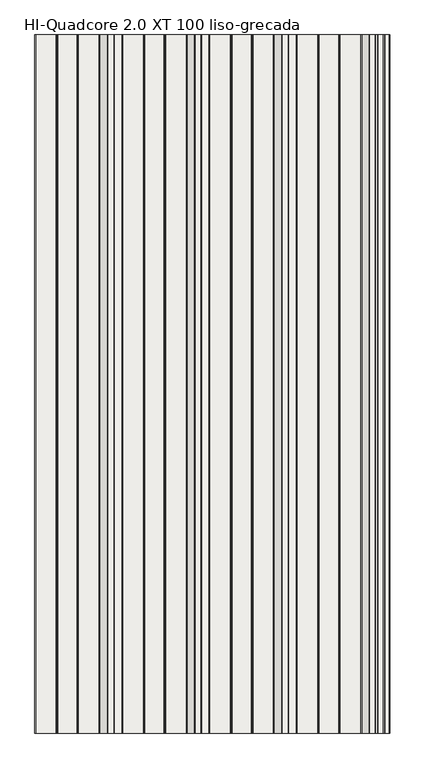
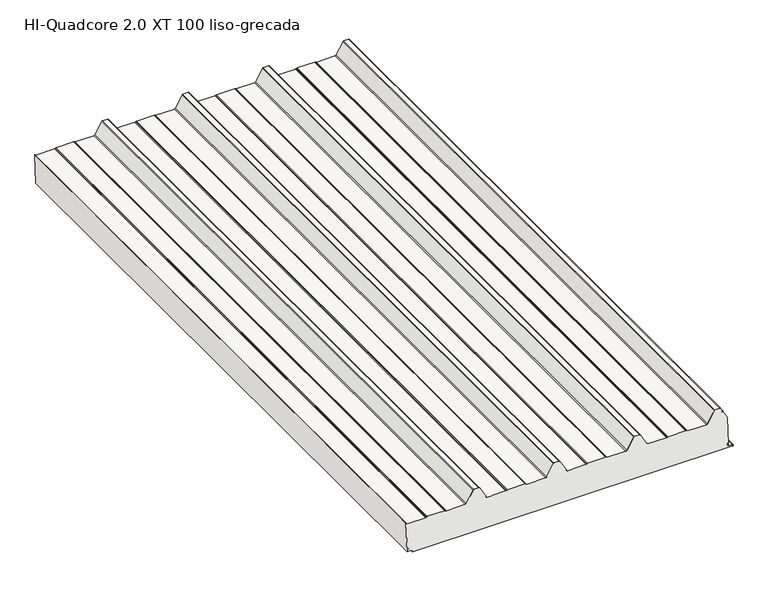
"""IFC4 building model written with IfcOpenShell, lengths in millimetres: slab geometry, HI_QuadCore2.0XT-XT DUAL : HI-Quadcore 2.0 XT 100 liso-grecada."""

from ifc_helpers import new_model, si_unit, point, frame, frame_2d, origin, place, context, project, spatial, polyline, circle_curve, trimmed, segment, composite_curve, outline, extrude, source, transform, mapped, element, save


def hi_quadcore_2_0_xt_100_liso_grecada_5e3a8000(model_context):
    return source(origin(), model_context, "Body", "SweptSolid", [
        extrude(outline(composite_curve([segment(polyline([(101.2667387, 1181.036551), (127.9197266, 1166.0442453)]), True, "CONTINUOUS"), segment(trimmed(circle_curve(frame_2d((126.9392041, 1164.3010942)), 2.0), [point((127.9197266, 1166.0442453))], [point((125.939301, 1166.033201))], True, "CARTESIAN"), True, "CONTINUOUS"), segment(polyline([(125.939301, 1166.033201), (124.3282068, 1165.1031555), (124.7281681, 1164.4103128), (126.3392623, 1165.3403583)]), True, "CONTINUOUS"), segment(trimmed(circle_curve(frame_2d((126.9392041, 1164.3010942)), 1.2), [point((126.3392623, 1165.3403583))], [point((127.5275176, 1165.3469849))], False, "CARTESIAN"), True, "CONTINUOUS"), segment(polyline([(127.5275176, 1165.3469849), (138.0785747, 1159.4120152)]), True, "CONTINUOUS"), segment(trimmed(circle_curve(frame_2d((137.0, 1157.4945491)), 2.2), [point((138.0785747, 1159.4120152))], [point((139.2, 1157.4945491))], False, "CARTESIAN"), True, "CONTINUOUS"), segment(polyline([(139.2, 1157.4945491), (139.2, 1142.1184247)]), True, "CONTINUOUS"), segment(trimmed(circle_curve(frame_2d((137.0, 1142.1184247)), 2.2), [point((139.2, 1142.1184247))], [point((138.0662182, 1140.1940602))], False, "CARTESIAN"), True, "CONTINUOUS"), segment(polyline([(138.0662182, 1140.1940602), (101.1583504, 1119.7447946)]), True, "CONTINUOUS"), segment(trimmed(circle_curve(frame_2d((103.0, 1116.4208923)), 3.8), [point((101.1583504, 1119.7447946))], [point((99.2, 1116.4208923))], True, "CARTESIAN"), True, "CONTINUOUS"), segment(polyline([(99.2, 1116.4208923), (99.2, 1057.5510443)]), True, "CONTINUOUS"), segment(trimmed(circle_curve(frame_2d((103.0, 1057.5510443)), 3.8), [point((99.2, 1057.5510443))], [point((99.6973596, 1055.671532))], True, "CARTESIAN"), True, "CONTINUOUS"), segment(polyline([(99.6973596, 1055.671532), (100.912055, 1053.5370944)]), True, "CONTINUOUS"), segment(trimmed(circle_curve(frame_2d((99.0, 1052.4489557)), 2.2), [point((100.912055, 1053.5370944))], [point((101.2, 1052.4489557))], False, "CARTESIAN"), True, "CONTINUOUS"), segment(polyline([(101.2, 1052.4489557), (101.2, 997.5510443)]), True, "CONTINUOUS"), segment(trimmed(circle_curve(frame_2d((99.0, 997.5510443)), 2.2), [point((101.2, 997.5510443))], [point((100.912055, 996.4629056))], False, "CARTESIAN"), True, "CONTINUOUS"), segment(polyline([(100.912055, 996.4629056), (99.6973596, 994.328468)]), True, "CONTINUOUS"), segment(trimmed(circle_curve(frame_2d((103.0, 992.4489557)), 3.8), [point((99.6973596, 994.328468))], [point((99.2, 992.4489557))], True, "CARTESIAN"), True, "CONTINUOUS"), segment(polyline([(99.2, 992.4489557), (99.2, 934.2545425)]), True, "CONTINUOUS"), segment(trimmed(circle_curve(frame_2d((103.0, 934.2545425)), 3.8), [point((99.2, 934.2545425))], [point((101.1370073, 930.9425554))], True, "CARTESIAN"), True, "CONTINUOUS"), segment(polyline([(101.1370073, 930.9425554), (138.0785747, 910.1629237)]), True, "CONTINUOUS"), segment(trimmed(circle_curve(frame_2d((137.0, 908.2454575)), 2.2), [point((138.0785747, 910.1629237))], [point((139.2, 908.2454575))], False, "CARTESIAN"), True, "CONTINUOUS"), segment(polyline([(139.2, 908.2454575), (139.2, 891.7545425)]), True, "CONTINUOUS"), segment(trimmed(circle_curve(frame_2d((137.0, 891.7545425)), 2.2), [point((139.2, 891.7545425))], [point((138.0785747, 889.8370763))], False, "CARTESIAN"), True, "CONTINUOUS"), segment(polyline([(138.0785747, 889.8370763), (101.1370073, 869.0574446)]), True, "CONTINUOUS"), segment(trimmed(circle_curve(frame_2d((103.0, 865.7454575)), 3.8), [point((101.1370073, 869.0574446))], [point((99.2, 865.7454575))], True, "CARTESIAN"), True, "CONTINUOUS"), segment(polyline([(99.2, 865.7454575), (99.2, 807.5510443)]), True, "CONTINUOUS"), segment(trimmed(circle_curve(frame_2d((103.0, 807.5510443)), 3.8), [point((99.2, 807.5510443))], [point((99.6973596, 805.671532))], True, "CARTESIAN"), True, "CONTINUOUS"), segment(polyline([(99.6973596, 805.671532), (100.912055, 803.5370944)]), True, "CONTINUOUS"), segment(trimmed(circle_curve(frame_2d((99.0, 802.4489557)), 2.2), [point((100.912055, 803.5370944))], [point((101.2, 802.4489557))], False, "CARTESIAN"), True, "CONTINUOUS"), segment(polyline([(101.2, 802.4489557), (101.2, 747.5510443)]), True, "CONTINUOUS"), segment(trimmed(circle_curve(frame_2d((99.0, 747.5510443)), 2.2), [point((101.2, 747.5510443))], [point((100.912055, 746.4629056))], False, "CARTESIAN"), True, "CONTINUOUS"), segment(polyline([(100.912055, 746.4629056), (99.6973596, 744.328468)]), True, "CONTINUOUS"), segment(trimmed(circle_curve(frame_2d((103.0, 742.4489557)), 3.8), [point((99.6973596, 744.328468))], [point((99.2, 742.4489557))], True, "CARTESIAN"), True, "CONTINUOUS"), segment(polyline([(99.2, 742.4489557), (99.2, 684.2545425)]), True, "CONTINUOUS"), segment(trimmed(circle_curve(frame_2d((103.0, 684.2545425)), 3.8), [point((99.2, 684.2545425))], [point((101.1370073, 680.9425554))], True, "CARTESIAN"), True, "CONTINUOUS"), segment(polyline([(101.1370073, 680.9425554), (138.0785747, 660.1629237)]), True, "CONTINUOUS"), segment(trimmed(circle_curve(frame_2d((137.0, 658.2454575)), 2.2), [point((138.0785747, 660.1629237))], [point((139.2, 658.2454575))], False, "CARTESIAN"), True, "CONTINUOUS"), segment(polyline([(139.2, 658.2454575), (139.2, 641.7545425)]), True, "CONTINUOUS"), segment(trimmed(circle_curve(frame_2d((137.0, 641.7545425)), 2.2), [point((139.2, 641.7545425))], [point((138.0785747, 639.8370763))], False, "CARTESIAN"), True, "CONTINUOUS"), segment(polyline([(138.0785747, 639.8370763), (101.1370073, 619.0574446)]), True, "CONTINUOUS"), segment(trimmed(circle_curve(frame_2d((103.0, 615.7454575)), 3.8), [point((101.1370073, 619.0574446))], [point((99.2, 615.7454575))], True, "CARTESIAN"), True, "CONTINUOUS"), segment(polyline([(99.2, 615.7454575), (99.2, 557.5510443)]), True, "CONTINUOUS"), segment(trimmed(circle_curve(frame_2d((103.0, 557.5510443)), 3.8), [point((99.2, 557.5510443))], [point((99.6973596, 555.671532))], True, "CARTESIAN"), True, "CONTINUOUS"), segment(polyline([(99.6973596, 555.671532), (100.912055, 553.5370944)]), True, "CONTINUOUS"), segment(trimmed(circle_curve(frame_2d((99.0, 552.4489557)), 2.2), [point((100.912055, 553.5370944))], [point((101.2, 552.4489557))], False, "CARTESIAN"), True, "CONTINUOUS"), segment(polyline([(101.2, 552.4489557), (101.2, 497.5510443)]), True, "CONTINUOUS"), segment(trimmed(circle_curve(frame_2d((99.0, 497.5510443)), 2.2), [point((101.2, 497.5510443))], [point((100.912055, 496.4629056))], False, "CARTESIAN"), True, "CONTINUOUS"), segment(polyline([(100.912055, 496.4629056), (99.6973596, 494.328468)]), True, "CONTINUOUS"), segment(trimmed(circle_curve(frame_2d((103.0, 492.4489557)), 3.8), [point((99.6973596, 494.328468))], [point((99.2, 492.4489557))], True, "CARTESIAN"), True, "CONTINUOUS"), segment(polyline([(99.2, 492.4489557), (99.2, 434.2545425)]), True, "CONTINUOUS"), segment(trimmed(circle_curve(frame_2d((103.0, 434.2545425)), 3.8), [point((99.2, 434.2545425))], [point((101.1370073, 430.9425554))], True, "CARTESIAN"), True, "CONTINUOUS"), segment(polyline([(101.1370073, 430.9425554), (138.0785747, 410.1629237)]), True, "CONTINUOUS"), segment(trimmed(circle_curve(frame_2d((137.0, 408.2454575)), 2.2), [point((138.0785747, 410.1629237))], [point((139.2, 408.2454575))], False, "CARTESIAN"), True, "CONTINUOUS"), segment(polyline([(139.2, 408.2454575), (139.2, 391.7545425)]), True, "CONTINUOUS"), segment(trimmed(circle_curve(frame_2d((137.0, 391.7545425)), 2.2), [point((139.2, 391.7545425))], [point((138.0785747, 389.8370763))], False, "CARTESIAN"), True, "CONTINUOUS"), segment(polyline([(138.0785747, 389.8370763), (101.1370073, 369.0574446)]), True, "CONTINUOUS"), segment(trimmed(circle_curve(frame_2d((103.0, 365.7454575)), 3.8), [point((101.1370073, 369.0574446))], [point((99.2, 365.7454575))], True, "CARTESIAN"), True, "CONTINUOUS"), segment(polyline([(99.2, 365.7454575), (99.2, 307.5510443)]), True, "CONTINUOUS"), segment(trimmed(circle_curve(frame_2d((103.0, 307.5510443)), 3.8), [point((99.2, 307.5510443))], [point((99.6973596, 305.671532))], True, "CARTESIAN"), True, "CONTINUOUS"), segment(polyline([(99.6973596, 305.671532), (100.912055, 303.5370944)]), True, "CONTINUOUS"), segment(trimmed(circle_curve(frame_2d((99.0, 302.4489557)), 2.2), [point((100.912055, 303.5370944))], [point((101.2, 302.4489557))], False, "CARTESIAN"), True, "CONTINUOUS"), segment(polyline([(101.2, 302.4489557), (101.2, 247.5510443)]), True, "CONTINUOUS"), segment(trimmed(circle_curve(frame_2d((99.0, 247.5510443)), 2.2), [point((101.2, 247.5510443))], [point((100.912055, 246.4629056))], False, "CARTESIAN"), True, "CONTINUOUS"), segment(polyline([(100.912055, 246.4629056), (99.6973596, 244.328468)]), True, "CONTINUOUS"), segment(trimmed(circle_curve(frame_2d((103.0, 242.4489557)), 3.8), [point((99.6973596, 244.328468))], [point((99.2, 242.4489557))], True, "CARTESIAN"), True, "CONTINUOUS"), segment(polyline([(99.2, 242.4489557), (99.2, 184.6545425)]), True, "CONTINUOUS"), segment(trimmed(circle_curve(frame_2d((103.0, 184.6545425)), 3.8), [point((99.2, 184.6545425))], [point((101.2048889, 181.3052775))], True, "CARTESIAN"), True, "CONTINUOUS"), segment(polyline([(101.2048889, 181.3052775), (7.0308356, 184.4622222), (7.2414508, 185.8457731), (11.9758655, 185.8456417)]), True, "CONTINUOUS"), segment(trimmed(circle_curve(frame_2d((11.9759203, 187.8456416)), 1.9999999), [point((11.9758655, 185.8456417))], [point((13.3900948, 186.4313891))], True, "CARTESIAN"), True, "CONTINUOUS"), segment(polyline([(13.3900948, 186.4313891), (15.4963556, 188.5375329), (14.9306702, 189.1032183), (12.8244256, 186.9970899)]), True, "CONTINUOUS"), segment(trimmed(circle_curve(frame_2d((11.9759203, 187.8456416)), 1.2000005), [point((12.8244256, 186.9970899))], [point((11.9773876, 186.645642))], False, "CARTESIAN"), True, "CONTINUOUS"), segment(polyline([(11.9773876, 186.645642), (8.3337062, 186.6457428)]), True, "CONTINUOUS"), segment(trimmed(circle_curve(frame_2d((8.3337394, 187.8457428)), 1.2), [point((8.3337062, 186.6457428))], [point((7.1369439, 187.7581044))], False, "CARTESIAN"), True, "CONTINUOUS"), segment(polyline([(7.1369439, 187.7581044), (6.3740035, 198.1768616)]), True, "CONTINUOUS"), segment(trimmed(circle_curve(frame_2d((3.5874027, 197.9032632)), 2.8), [point((6.3740035, 198.1768616))], [point((3.5874804, 200.7032632))], True, "CARTESIAN"), True, "CONTINUOUS"), segment(polyline([(3.5874804, 200.7032632), (1.9756233, 200.7033079)]), True, "CONTINUOUS"), segment(trimmed(circle_curve(frame_2d((1.9756562, 201.9033076)), 1.1999997), [point((1.9756233, 200.7033079))], [point((0.7756565, 201.9033408))], False, "CARTESIAN"), True, "CONTINUOUS"), segment(polyline([(0.7756565, 201.9033408), (0.8032689, 1197.9136557)]), True, "CONTINUOUS"), segment(trimmed(circle_curve(frame_2d((2.0032353, 1197.9046782)), 1.2), [point((0.8032689, 1197.9136557))], [point((2.0032686, 1199.1046782))], False, "CARTESIAN"), True, "CONTINUOUS"), segment(polyline([(2.0032686, 1199.1046782), (2.9118044, 1199.104653)]), True, "CONTINUOUS"), segment(trimmed(circle_curve(frame_2d((2.9117711, 1197.9046533)), 1.1999997), [point((2.9118044, 1199.104653))], [point((4.1105786, 1197.9581323))], False, "CARTESIAN"), True, "CONTINUOUS"), segment(polyline([(4.1105786, 1197.9581323), (5.0061949, 1186.1323972)]), True, "CONTINUOUS"), segment(trimmed(circle_curve(frame_2d((7.7981993, 1186.3438482)), 2.8), [point((5.0061949, 1186.1323972))], [point((7.7981217, 1183.5438482))], True, "CARTESIAN"), True, "CONTINUOUS"), segment(polyline([(7.7981217, 1183.5438482), (11.7460458, 1183.5455151)]), True, "CONTINUOUS"), segment(trimmed(circle_curve(frame_2d((11.7411592, 1182.3429645)), 1.2025605), [point((11.7460458, 1183.5455151))], [point((12.5937174, 1183.1910778))], False, "CARTESIAN"), True, "CONTINUOUS"), segment(polyline([(12.5937174, 1183.1910778), (14.0134457, 1181.7779905), (14.5791311, 1182.3436759), (13.1649724, 1183.757913), (101.2667387, 1181.036551)]), True, "CONTINUOUS")], self_intersect=False)), frame((0.0, 0.0, 0.0), z_axis=(0.0, 1.0, 0.0), x_axis=(0.0, 0.0, 1.0)), (0.0, 0.0, 1.0), 2000.0),
    ])


if __name__ == "__main__":
    model = new_model("IFC4")
    model_context = context("Model", 3, world=origin())
    ifc_project = project(units=[si_unit("LENGTHUNIT", "METRE", prefix="MILLI")], contexts=[model_context])
    site = spatial("IfcSite", under=ifc_project)
    building = spatial("IfcBuilding", under=site)
    placement = place(None, origin())
    hi_quadcore_2_0_xt_100_liso_grecada_shape = hi_quadcore_2_0_xt_100_liso_grecada_5e3a8000(model_context)
    element("IfcSlab", 1, ObjectType="HI_QuadCore2.0XT-XT DUAL : HI-Quadcore 2.0 XT 100 liso-grecada", at=placement, inside=building, context=model_context, shape_type="MappedRepresentation", body=[
        mapped(hi_quadcore_2_0_xt_100_liso_grecada_shape, transform((0.0, 0.0, 0.0), x_axis=(1.0, 0.0, 0.0), y_axis=(0.0, 1.0, 0.0), z_axis=(0.0, 0.0, 1.0))),
    ])
    save(model, "model.ifc")
